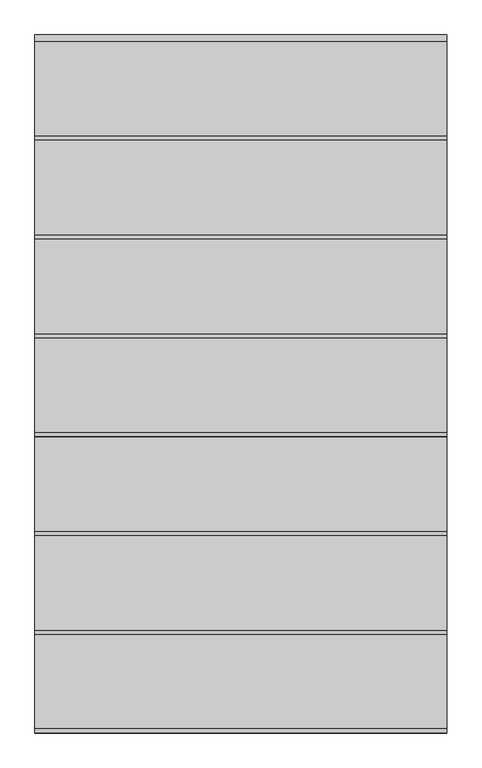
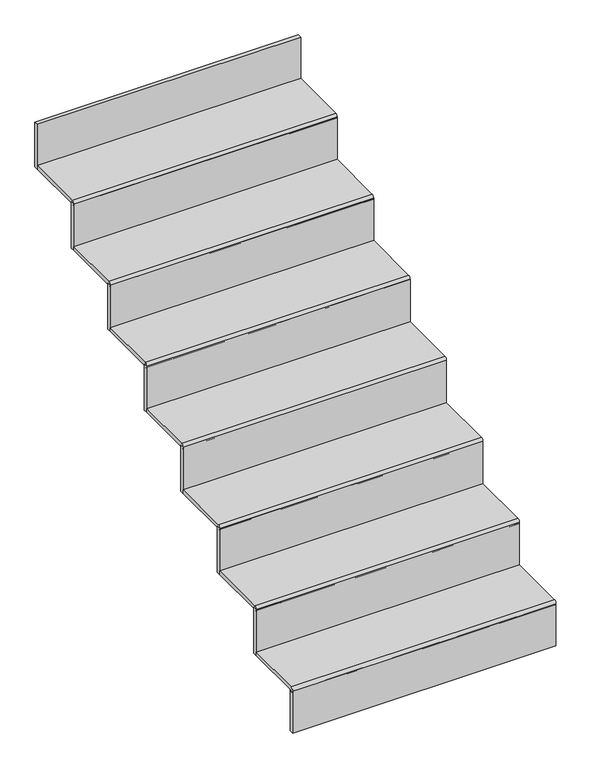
"""IFC4 building model written with IfcOpenShell, lengths in millimetres: stair flight geometry, メタル階段 15 mm 踏み板 15 mm 蹴上げ."""

from ifc_helpers import new_model, si_unit, point, frame, frame_2d, origin, place, context, project, spatial, polyline, circle_curve, trimmed, segment, composite_curve, outline, extrude, source, transform, mapped, element, save


def stair_flight_b28b8e51(model_context):
    return source(origin(), model_context, "Body", "SweptSolid", [
        extrude(outline(composite_curve([segment(polyline([(-553.9617267, 380.0), (-323.9617267, 380.0), (-323.9617267, 365.0), (-553.9617267, 365.0), (-553.9617267, 360.0)]), True, "CONTINUOUS"), segment(trimmed(circle_curve(frame_2d((-553.9617267, 370.0)), 10.0), [point((-553.9617267, 360.0))], [point((-553.9617267, 380.0))], False, "CARTESIAN"), True, "CONTINUOUS")], self_intersect=False)), frame((-4742.8880564, 0.0, 0.0), z_axis=(1.0, 0.0, 0.0), x_axis=(0.0, 1.0, 0.0)), (0.0, 0.0, 1.0), 1000.0),
        extrude(outline(polyline([(-3742.8880564, -548.9617267), (-3742.8880564, -563.9617267), (-4742.8880564, -563.9617267), (-4742.8880564, -548.9617267), (-3742.8880564, -548.9617267)])), frame((0.0, 0.0, 200.0), z_axis=(0.0, 0.0, 1.0), x_axis=(1.0, 0.0, 0.0)), (0.0, 0.0, 1.0), 170.0),
        extrude(outline(polyline([(-3742.8880564, -308.9617267), (-3742.8880564, -323.9617267), (-4742.8880564, -323.9617267), (-4742.8880564, -308.9617267), (-3742.8880564, -308.9617267)])), frame((0.0, 0.0, 365.0), z_axis=(0.0, 0.0, 1.0), x_axis=(1.0, 0.0, 0.0)), (0.0, 0.0, 1.0), 185.0),
        extrude(outline(composite_curve([segment(polyline([(-313.9617267, 560.0), (-83.9617267, 560.0), (-83.9617267, 545.0), (-313.9617267, 545.0), (-313.9617267, 540.0)]), True, "CONTINUOUS"), segment(trimmed(circle_curve(frame_2d((-313.9617267, 550.0)), 10.0), [point((-313.9617267, 540.0))], [point((-313.9617267, 560.0))], False, "CARTESIAN"), True, "CONTINUOUS")], self_intersect=False)), frame((-4742.8880564, 0.0, 0.0), z_axis=(1.0, 0.0, 0.0), x_axis=(0.0, 1.0, 0.0)), (0.0, 0.0, 1.0), 1000.0),
        extrude(outline(polyline([(-3742.8880564, -68.9617267), (-3742.8880564, -83.9617267), (-4742.8880564, -83.9617267), (-4742.8880564, -68.9617267), (-3742.8880564, -68.9617267)])), frame((0.0, 0.0, 545.0), z_axis=(0.0, 0.0, 1.0), x_axis=(1.0, 0.0, 0.0)), (0.0, 0.0, 1.0), 185.0),
        extrude(outline(composite_curve([segment(polyline([(-73.9617267, 740.0), (156.0382733, 740.0), (156.0382733, 725.0), (-73.9617267, 725.0), (-73.9617267, 720.0)]), True, "CONTINUOUS"), segment(trimmed(circle_curve(frame_2d((-73.9617267, 730.0)), 10.0), [point((-73.9617267, 720.0))], [point((-73.9617267, 740.0))], False, "CARTESIAN"), True, "CONTINUOUS")], self_intersect=False)), frame((-4742.8880564, 0.0, 0.0), z_axis=(1.0, 0.0, 0.0), x_axis=(0.0, 1.0, 0.0)), (0.0, 0.0, 1.0), 1000.0),
        extrude(outline(polyline([(-3742.8880564, 171.0382733), (-3742.8880564, 156.0382733), (-4742.8880564, 156.0382733), (-4742.8880564, 171.0382733), (-3742.8880564, 171.0382733)])), frame((0.0, 0.0, 725.0), z_axis=(0.0, 0.0, 1.0), x_axis=(1.0, 0.0, 0.0)), (0.0, 0.0, 1.0), 185.0),
        extrude(outline(composite_curve([segment(polyline([(166.0382733, 920.0), (396.0382733, 920.0), (396.0382733, 905.0), (166.0382733, 905.0), (166.0382733, 900.0)]), True, "CONTINUOUS"), segment(trimmed(circle_curve(frame_2d((166.0382733, 910.0)), 10.0), [point((166.0382733, 900.0))], [point((166.0382733, 920.0))], False, "CARTESIAN"), True, "CONTINUOUS")], self_intersect=False)), frame((-4742.8880564, 0.0, 0.0), z_axis=(1.0, 0.0, 0.0), x_axis=(0.0, 1.0, 0.0)), (0.0, 0.0, 1.0), 1000.0),
        extrude(outline(polyline([(-3742.8880564, 411.0382733), (-3742.8880564, 396.0382733), (-4742.8880564, 396.0382733), (-4742.8880564, 411.0382733), (-3742.8880564, 411.0382733)])), frame((0.0, 0.0, 905.0), z_axis=(0.0, 0.0, 1.0), x_axis=(1.0, 0.0, 0.0)), (0.0, 0.0, 1.0), 185.0),
        extrude(outline(composite_curve([segment(polyline([(406.0382733, 1100.0), (636.0382733, 1100.0), (636.0382733, 1085.0), (406.0382733, 1085.0), (406.0382733, 1080.0)]), True, "CONTINUOUS"), segment(trimmed(circle_curve(frame_2d((406.0382733, 1090.0)), 10.0), [point((406.0382733, 1080.0))], [point((406.0382733, 1100.0))], False, "CARTESIAN"), True, "CONTINUOUS")], self_intersect=False)), frame((-4742.8880564, 0.0, 0.0), z_axis=(1.0, 0.0, 0.0), x_axis=(0.0, 1.0, 0.0)), (0.0, 0.0, 1.0), 1000.0),
        extrude(outline(polyline([(-3742.8880564, 651.0382733), (-3742.8880564, 636.0382733), (-4742.8880564, 636.0382733), (-4742.8880564, 651.0382733), (-3742.8880564, 651.0382733)])), frame((0.0, 0.0, 1085.0), z_axis=(0.0, 0.0, 1.0), x_axis=(1.0, 0.0, 0.0)), (0.0, 0.0, 1.0), 185.0),
        extrude(outline(composite_curve([segment(polyline([(646.0382733, 1280.0), (876.0382733, 1280.0), (876.0382733, 1265.0), (646.0382733, 1265.0), (646.0382733, 1260.0)]), True, "CONTINUOUS"), segment(trimmed(circle_curve(frame_2d((646.0382733, 1270.0)), 10.0), [point((646.0382733, 1260.0))], [point((646.0382733, 1280.0))], False, "CARTESIAN"), True, "CONTINUOUS")], self_intersect=False)), frame((-4742.8880564, 0.0, 0.0), z_axis=(1.0, 0.0, 0.0), x_axis=(0.0, 1.0, 0.0)), (0.0, 0.0, 1.0), 1000.0),
        extrude(outline(polyline([(-3742.8880564, 891.0382733), (-3742.8880564, 876.0382733), (-4742.8880564, 876.0382733), (-4742.8880564, 891.0382733), (-3742.8880564, 891.0382733)])), frame((0.0, 0.0, 1265.0), z_axis=(0.0, 0.0, 1.0), x_axis=(1.0, 0.0, 0.0)), (0.0, 0.0, 1.0), 185.0),
        extrude(outline(polyline([(-3742.8880564, 1131.0382733), (-3742.8880564, 1116.0382733), (-4742.8880564, 1116.0382733), (-4742.8880564, 1131.0382733), (-3742.8880564, 1131.0382733)])), frame((0.0, 0.0, 1445.0), z_axis=(0.0, 0.0, 1.0), x_axis=(1.0, 0.0, 0.0)), (0.0, 0.0, 1.0), 180.0),
        extrude(outline(composite_curve([segment(polyline([(886.0382733, 1460.0), (1116.0382733, 1460.0), (1116.0382733, 1445.0), (886.0382733, 1445.0), (886.0382733, 1440.0)]), True, "CONTINUOUS"), segment(trimmed(circle_curve(frame_2d((886.0382733, 1450.0)), 10.0), [point((886.0382733, 1440.0))], [point((886.0382733, 1460.0))], False, "CARTESIAN"), True, "CONTINUOUS")], self_intersect=False)), frame((-4742.8880564, 0.0, 0.0), z_axis=(1.0, 0.0, 0.0), x_axis=(0.0, 1.0, 0.0)), (0.0, 0.0, 1.0), 1000.0),
    ])


if __name__ == "__main__":
    model = new_model("IFC4")
    model_context = context("Model", 3, world=origin())
    ifc_project = project(units=[si_unit("LENGTHUNIT", "METRE", prefix="MILLI")], contexts=[model_context])
    site = spatial("IfcSite", under=ifc_project)
    building = spatial("IfcBuilding", under=site)
    placement = place(None, origin())
    stair_flight_shape = stair_flight_b28b8e51(model_context)
    element("IfcStairFlight", 1, ObjectType="メタル階段 15 mm 踏み板 15 mm 蹴上げ", at=placement, inside=building, context=model_context, shape_type="MappedRepresentation", body=[
        mapped(stair_flight_shape, transform((0.0, 0.0, 0.0), x_axis=(1.0, 0.0, 0.0), y_axis=(0.0, 1.0, 0.0), z_axis=(0.0, 0.0, 1.0))),
    ])
    save(model, "model.ifc")
